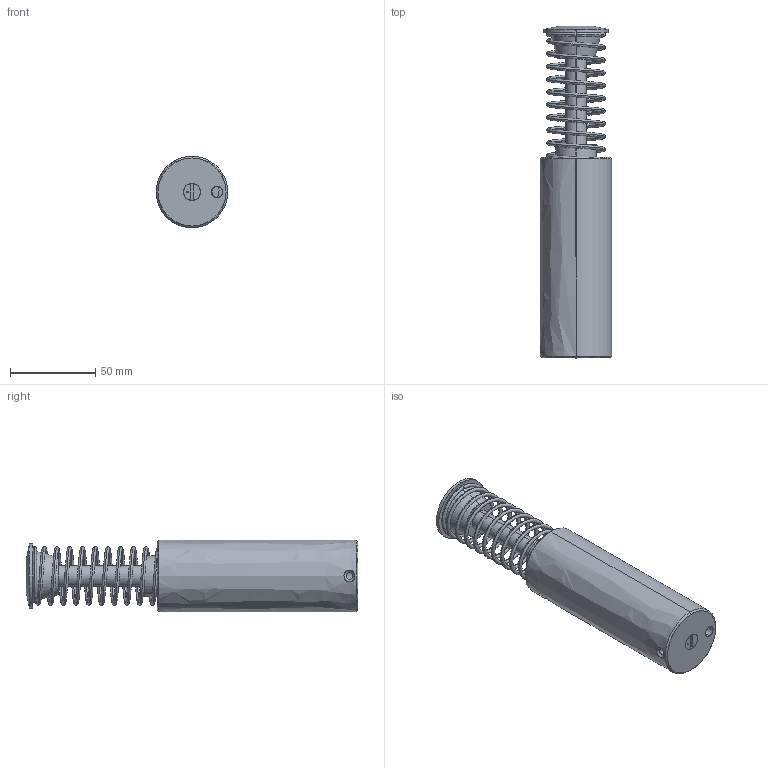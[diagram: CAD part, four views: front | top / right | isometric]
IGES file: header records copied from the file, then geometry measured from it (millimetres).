
Start section: SolidWorks IGES file using analytic representation for surfaces
Bounding box: 42 x 195 x 42 mm (x, y, z)
Surface area: 36788.6 mm2 (no closed solid volume)
Topology: 0 solids, 0 shells, 99 faces, 1703 edges, 1701 vertices
Faces by surface type: revolution 60, bspline 39
